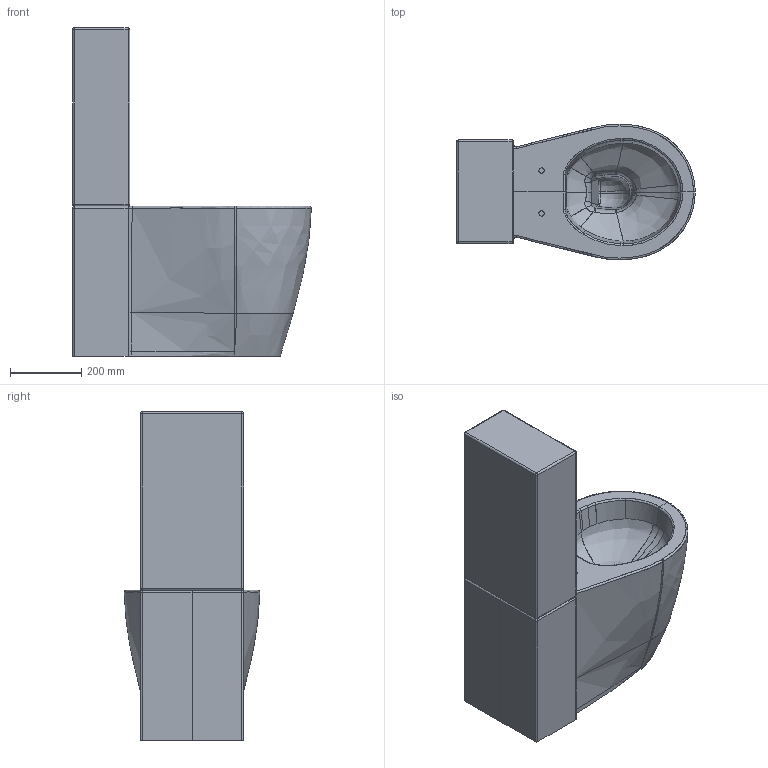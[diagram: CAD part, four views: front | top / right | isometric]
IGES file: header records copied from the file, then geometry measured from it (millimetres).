
Start section: START RECORD GO HERE.
Global section: file name: 9910_3D.igs; native system: DASSAULT SYSTEMES CATIA V5 R19 - www.3ds.com; preprocessor: CATIA Version 5 Release 19 SP 5 ; author: gioge; organization: LAPTOP-G94B6G74; date: 20201125.161741; units: millimetre
Bounding box: 668.52 x 380.23 x 920 mm (x, y, z)
Surface area: 1818549.1 mm2 (no closed solid volume)
Topology: 0 solids, 0 shells, 228 faces, 1144 edges, 1130 vertices
Faces by surface type: bspline 146, revolution 52, plane 30
